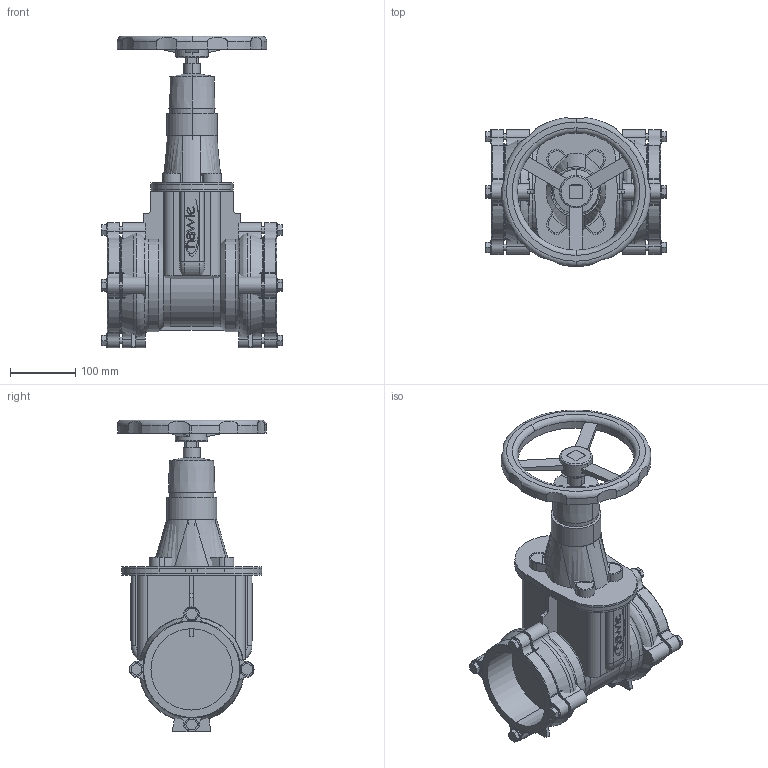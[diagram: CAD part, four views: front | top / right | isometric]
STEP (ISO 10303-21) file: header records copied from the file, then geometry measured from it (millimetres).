
FILE_DESCRIPTION(('STEP AP214'),'1');
FILE_NAME('S:/EK/USER/CAT6/3DHomepage/4040E2/4040E2-PN16-DN100-125-HANDRAD.STP','2012-04-24T11:03:41',(' '),(' '),'Spatial InterOp 3D',' ',' ');
FILE_SCHEMA(('automotive_design'));
Length unit declared in the file: millimetre
Products named in the file (91): 3D-Objekt
Bounding box: 276.8 x 228.67 x 479 mm (x, y, z)
Volume: 6732549.1 mm3; surface area: 928020.4 mm2
Topology: 91 solids, 91 shells, 820 faces, 1880 edges, 1252 vertices
Faces by surface type: plane 444, cylinder 310, torus 36, cone 18, bspline 12
Entity records: 32495 total; most frequent: CARTESIAN_POINT 4533, DIRECTION 4450, ORIENTED_EDGE 3760, EDGE_CURVE 1880, AXIS2_PLACEMENT_3D 1681, VERTEX_POINT 1252, LINE 1088, VECTOR 1088
